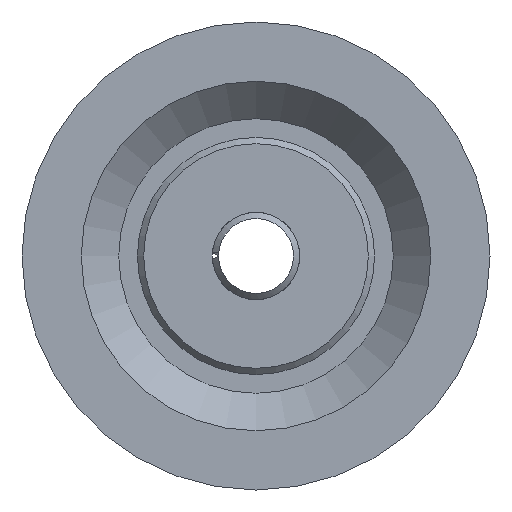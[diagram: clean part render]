
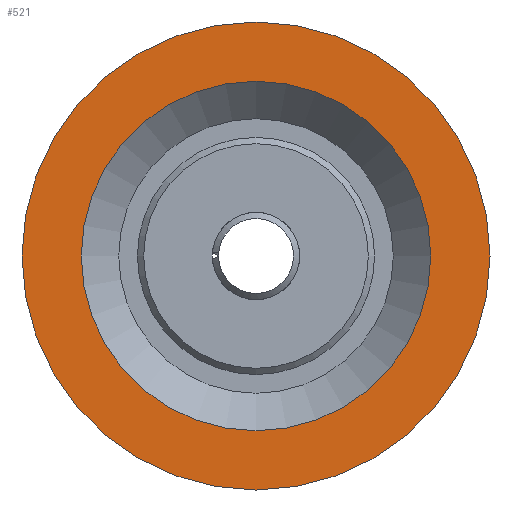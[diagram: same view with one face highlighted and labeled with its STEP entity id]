
A CAD part, left-side view. The second image highlights one B-rep face of the part: STEP entity #521.
In plain terms, the highlighted planar face has unit normal (-1, 0, 0).
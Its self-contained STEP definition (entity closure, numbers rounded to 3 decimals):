
#34=FACE_BOUND('',#147,.T.);
#40=PLANE('',#655);
#114=FACE_OUTER_BOUND('',#146,.T.);
#146=EDGE_LOOP('',(#439,#440));
#147=EDGE_LOOP('',(#441,#442));
#182=CIRCLE('',#622,37.5);
#183=CIRCLE('',#623,37.5);
#203=CIRCLE('',#653,28.);
#204=CIRCLE('',#654,28.);
#235=VERTEX_POINT('',#926);
#236=VERTEX_POINT('',#928);
#256=VERTEX_POINT('',#985);
#257=VERTEX_POINT('',#987);
#294=EDGE_CURVE('',#235,#236,#182,.T.);
#295=EDGE_CURVE('',#236,#235,#183,.T.);
#322=EDGE_CURVE('',#257,#256,#203,.T.);
#323=EDGE_CURVE('',#256,#257,#204,.T.);
#439=ORIENTED_EDGE('',*,*,#295,.F.);
#440=ORIENTED_EDGE('',*,*,#294,.F.);
#441=ORIENTED_EDGE('',*,*,#322,.T.);
#442=ORIENTED_EDGE('',*,*,#323,.T.);
#521=ADVANCED_FACE('',(#114,#34),#40,.T.);
#622=AXIS2_PLACEMENT_3D('',#929,#740,#741);
#623=AXIS2_PLACEMENT_3D('',#930,#742,#743);
#653=AXIS2_PLACEMENT_3D('',#988,#809,#810);
#654=AXIS2_PLACEMENT_3D('',#989,#811,#812);
#655=AXIS2_PLACEMENT_3D('',#990,#813,#814);
#740=DIRECTION('center_axis',(1.,0.,0.));
#741=DIRECTION('ref_axis',(0.,0.,-1.));
#742=DIRECTION('center_axis',(1.,0.,0.));
#743=DIRECTION('ref_axis',(0.,0.,-1.));
#809=DIRECTION('center_axis',(1.,0.,0.));
#810=DIRECTION('ref_axis',(0.,0.,-1.));
#811=DIRECTION('center_axis',(1.,0.,0.));
#812=DIRECTION('ref_axis',(0.,0.,-1.));
#813=DIRECTION('center_axis',(-1.,0.,0.));
#814=DIRECTION('ref_axis',(0.,0.,1.));
#926=CARTESIAN_POINT('',(-9.,-37.5,0.));
#928=CARTESIAN_POINT('',(-9.,37.5,0.));
#929=CARTESIAN_POINT('Origin',(-9.,0.,0.));
#930=CARTESIAN_POINT('Origin',(-9.,0.,0.));
#985=CARTESIAN_POINT('',(-9.,-28.,0.));
#987=CARTESIAN_POINT('',(-9.,28.,0.));
#988=CARTESIAN_POINT('Origin',(-9.,0.,0.));
#989=CARTESIAN_POINT('Origin',(-9.,0.,0.));
#990=CARTESIAN_POINT('Origin',(-9.,37.5,0.));
